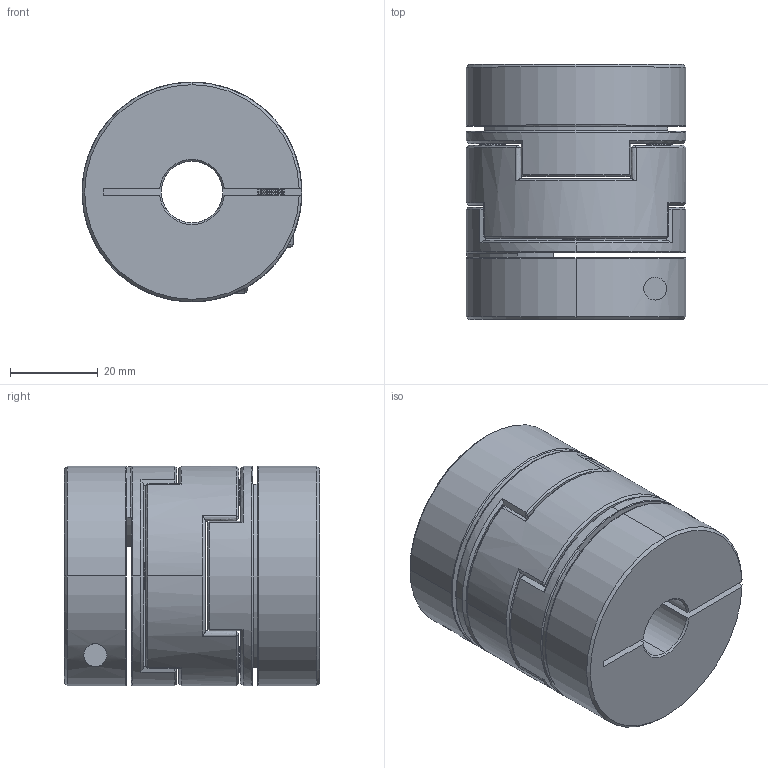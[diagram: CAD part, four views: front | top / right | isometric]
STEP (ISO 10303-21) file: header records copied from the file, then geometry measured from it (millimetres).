
FILE_DESCRIPTION (( 'STEP AP203' ), '1' );
FILE_NAME ('LZ-B-D50L58-14-19.STEP', '2021-10-29T08:06:27', ( '' ), ( '' ), 'SwSTEP 2.0', 'SolidWorks 2018', '' );
FILE_SCHEMA (( 'CONFIG_CONTROL_DESIGN' ));
Length unit declared in the file: millimetre
Products named in the file (1): LZ-B-D50L58-14-19
Bounding box: 50 x 58 x 50 mm (x, y, z)
Volume: 92324 mm3; surface area: 30030.1 mm2
Topology: 1 solids, 27 shells, 560 faces, 1364 edges, 810 vertices
Faces by surface type: cone 252, cylinder 160, plane 90, bspline 54, torus 4
Entity records: 17422 total; most frequent: CARTESIAN_POINT 4342, DIRECTION 2782, ORIENTED_EDGE 2720, EDGE_CURVE 1360, AXIS2_PLACEMENT_3D 1123, VERTEX_POINT 810, CIRCLE 616, EDGE_LOOP 594
